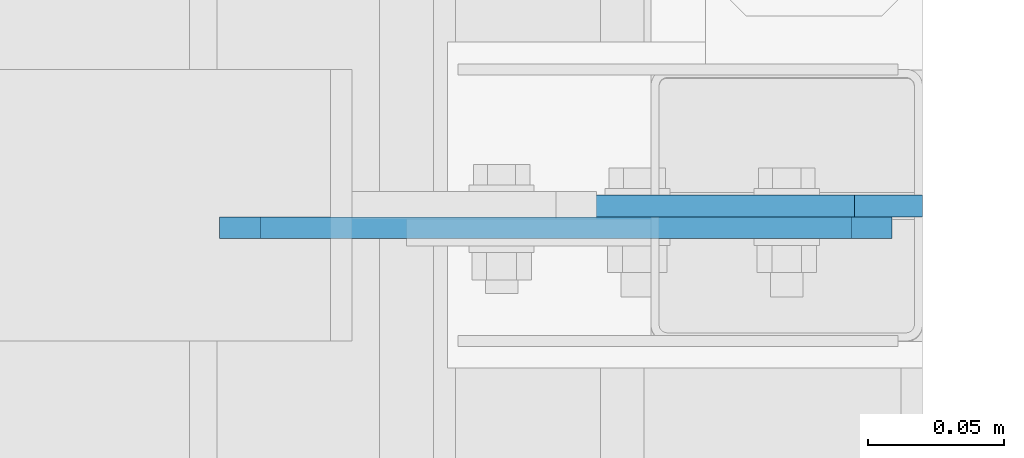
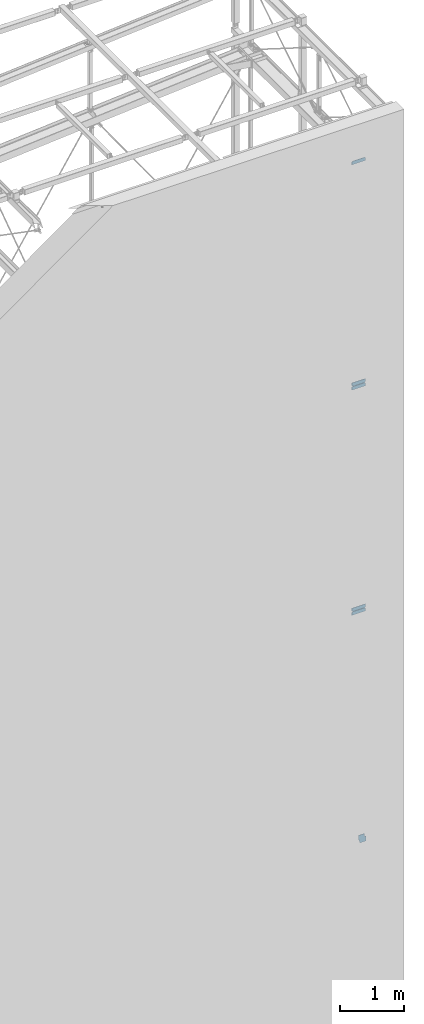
# One storey, part 166 of 271: 6 plates, 4 elements without a shape of their own.
"""IFC2X3 building model written with IfcOpenShell, lengths in millimetres."""

from ifc_helpers import new_model, si_unit, frame, origin_with_axes, place, context, subcontext, project, spatial, polyline, outline, extrude, material, type_object, element, aggregate, save


model = new_model("IFC2X3")

# Units and contexts
model_context = context("Model", 3, precision=1e-05, world=origin_with_axes())
body_context = subcontext(model_context, "Body", "Model", "MODEL_VIEW")
ifc_project = project(units=[si_unit("LENGTHUNIT", "METRE", prefix="MILLI"), si_unit("AREAUNIT", "SQUARE_METRE"), si_unit("VOLUMEUNIT", "CUBIC_METRE"), si_unit("MASSUNIT", "GRAM", prefix="KILO"), si_unit("TIMEUNIT", "SECOND"), si_unit("PLANEANGLEUNIT", "RADIAN"), si_unit("SOLIDANGLEUNIT", "STERADIAN"), si_unit("THERMODYNAMICTEMPERATUREUNIT", "DEGREE_CELSIUS"), si_unit("LUMINOUSINTENSITYUNIT", "LUMEN")], contexts=[model_context])

# Site, building, storey
site_placement = place(None, origin_with_axes())
site = spatial("IfcSite", under=ifc_project, at=site_placement, Name="Undefined", CompositionType="ELEMENT")
building_placement = place(site_placement, origin_with_axes())
building = spatial("IfcBuilding", under=site, at=building_placement, Name="Undefined", CompositionType="ELEMENT")
storey_placement = place(building_placement, origin_with_axes())
storey = spatial("IfcBuildingStorey", under=building, at=storey_placement, Name="Undefined", CompositionType="ELEMENT", Elevation=0.0)

# Assembly, plate
assembly_1_placement = place(storey_placement, origin_with_axes())
assembly_1 = element("IfcElementAssembly", 1, at=assembly_1_placement, inside=storey, AssemblyPlace="NOTDEFINED", PredefinedType="RIGID_FRAME")
ifc_material = material(Name="STEEL/S355JR")
plate_type_1 = type_object("IfcPlateType", Name="BL8*130", PredefinedType="NOTDEFINED")
plate_1_placement = place(assembly_1_placement, frame((12578.3756870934, 899.052119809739, 5516.84999990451), z_axis=(0.0, 1.0, 0.0), x_axis=(0.0, 0.0, 1.0)))
plate_1 = element("IfcPlate", 2, at=plate_1_placement, type_object=plate_type_1, material=ifc_material, Name="BLACHA", ObjectType="BL8*130", context=body_context, shape_type="SweptSolid", body=[
    extrude(outline(polyline([(0.0, 25.0), (70.0, -8.66862137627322e-13), (150.0, -1.68398628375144e-12), (150.0, 105.0), (90.0, 105.0), (90.0, 130.0), (-3.5527136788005e-14, 130.0), (0.0, 25.0)])), frame((0.0, 0.0, -4.0), z_axis=(0.0, 0.0, 1.0), x_axis=(1.0, 0.0, 0.0)), (0.0, 0.0, 1.0), 8.0),
])
aggregate(assembly_1, [plate_1])

assembly_2_placement = place(storey_placement, origin_with_axes())
assembly_2 = element("IfcElementAssembly", 3, at=assembly_2_placement, inside=storey, AssemblyPlace="NOTDEFINED", PredefinedType="RIGID_FRAME")
plate_type_2 = type_object("IfcPlateType", Name="BL8*64", PredefinedType="NOTDEFINED")
plate_2_placement = place(assembly_2_placement, frame((12449.5756869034, 891.052119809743, 18576.8499999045), z_axis=(0.0, 1.0, 0.0), x_axis=(0.0, 0.0, 1.0)))
plate_2 = element("IfcPlate", 4, at=plate_2_placement, type_object=plate_type_2, material=ifc_material, Name="BLACHA", ObjectType="BL8*64", context=body_context, shape_type="SweptSolid", body=[
    extrude(outline(polyline([(0.0, 0.0), (49.1999969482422, 0.0), (64.1999969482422, 15.0), (64.1999969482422, 232.600006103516), (49.1999969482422, 247.600006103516), (0.0, 247.600006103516), (0.0, 0.0)])), frame((0.0, 0.0, -4.0), z_axis=(0.0, 0.0, 1.0), x_axis=(1.0, 0.0, 0.0)), (0.0, 0.0, 1.0), 8.0),
])
aggregate(assembly_2, [plate_2])

# Assembly, plates
assembly_3_placement = place(storey_placement, origin_with_axes())
assembly_3 = element("IfcElementAssembly", 5, at=assembly_3_placement, inside=storey, AssemblyPlace="NOTDEFINED", PredefinedType="RIGID_FRAME")
plate_3_placement = place(assembly_3_placement, frame((12449.5756869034, 891.052119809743, 14256.8499999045), z_axis=(0.0, 1.0, 0.0), x_axis=(0.0, 0.0, 1.0)))
plate_3 = element("IfcPlate", 6, at=plate_3_placement, type_object=plate_type_2, material=ifc_material, Name="BLACHA", ObjectType="BL8*64", context=body_context, shape_type="SweptSolid", body=[
    extrude(outline(polyline([(0.0, 0.0), (49.1999969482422, 0.0), (64.1999969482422, 15.0), (64.1999969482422, 232.600006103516), (49.1999969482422, 247.600006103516), (0.0, 247.600006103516), (0.0, 0.0)])), frame((0.0, 0.0, -4.0), z_axis=(0.0, 0.0, 1.0), x_axis=(1.0, 0.0, 0.0)), (0.0, 0.0, 1.0), 8.0),
])
plate_4_placement = place(assembly_3_placement, frame((12449.5756869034, 891.052119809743, 14327.649999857), z_axis=(0.0, 1.0, 0.0), x_axis=(0.0, 0.0, 1.0)))
plate_4 = element("IfcPlate", 7, at=plate_4_placement, type_object=plate_type_2, material=ifc_material, Name="BLACHA", ObjectType="BL8*64", context=body_context, shape_type="SweptSolid", body=[
    extrude(outline(polyline([(0.0, 15.0), (15.0, -1.59872115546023e-14), (64.1999969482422, -1.77635683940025e-14), (64.1999969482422, 247.600006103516), (15.0, 247.600006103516), (0.0, 232.600006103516), (0.0, 15.0)])), frame((0.0, 0.0, -4.0), z_axis=(0.0, 0.0, 1.0), x_axis=(1.0, 0.0, 0.0)), (0.0, 0.0, 1.0), 8.0),
])
aggregate(assembly_3, [plate_3, plate_4])

assembly_4_placement = place(storey_placement, origin_with_axes())
assembly_4 = element("IfcElementAssembly", 8, at=assembly_4_placement, inside=storey, AssemblyPlace="NOTDEFINED", PredefinedType="RIGID_FRAME")
plate_5_placement = place(assembly_4_placement, frame((12449.5756869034, 891.05211980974, 9936.84999990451), z_axis=(0.0, 1.0, 0.0), x_axis=(0.0, 0.0, 1.0)))
plate_5 = element("IfcPlate", 9, at=plate_5_placement, type_object=plate_type_2, material=ifc_material, Name="BLACHA", ObjectType="BL8*64", context=body_context, shape_type="SweptSolid", body=[
    extrude(outline(polyline([(0.0, 0.0), (49.1999969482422, 0.0), (64.1999969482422, 15.0), (64.1999969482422, 232.600006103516), (49.1999969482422, 247.600006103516), (0.0, 247.600006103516), (0.0, 0.0)])), frame((0.0, 0.0, -4.0), z_axis=(0.0, 0.0, 1.0), x_axis=(1.0, 0.0, 0.0)), (0.0, 0.0, 1.0), 8.0),
])
plate_6_placement = place(assembly_4_placement, frame((12449.5756869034, 891.05211980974, 10007.649999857), z_axis=(0.0, 1.0, 0.0), x_axis=(0.0, 0.0, 1.0)))
plate_6 = element("IfcPlate", 10, at=plate_6_placement, type_object=plate_type_2, material=ifc_material, Name="BLACHA", ObjectType="BL8*64", context=body_context, shape_type="SweptSolid", body=[
    extrude(outline(polyline([(0.0, 15.0), (15.0, -1.59872115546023e-14), (64.1999969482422, -1.77635683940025e-14), (64.1999969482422, 247.600006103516), (15.0, 247.600006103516), (0.0, 232.600006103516), (0.0, 15.0)])), frame((0.0, 0.0, -4.0), z_axis=(0.0, 0.0, 1.0), x_axis=(1.0, 0.0, 0.0)), (0.0, 0.0, 1.0), 8.0),
])
aggregate(assembly_4, [plate_5, plate_6])

save(model, "model.ifc")
